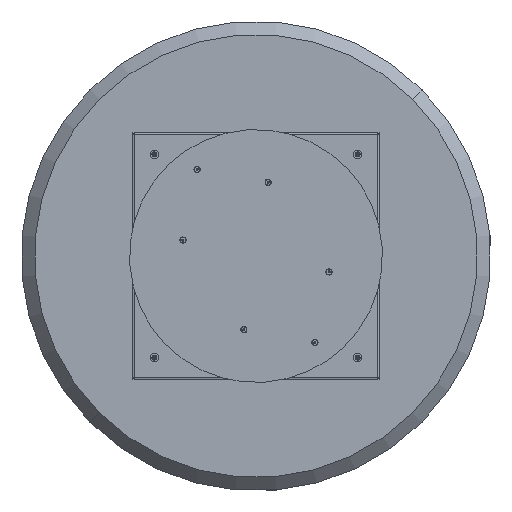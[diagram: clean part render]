
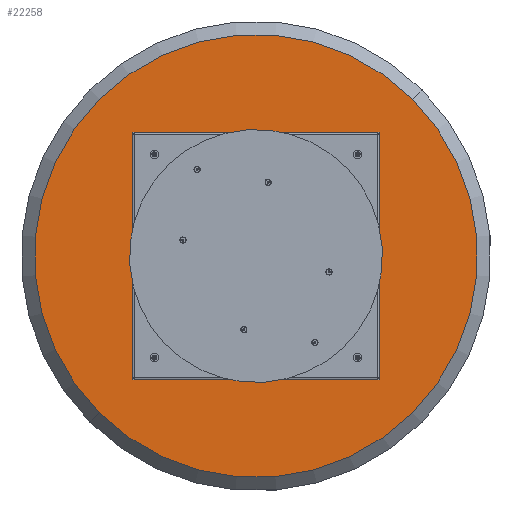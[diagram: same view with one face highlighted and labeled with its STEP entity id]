
A CAD part, front view. The second image highlights one B-rep face of the part: STEP entity #22258.
In plain terms, the highlighted planar face has unit normal (0, -1, 0).
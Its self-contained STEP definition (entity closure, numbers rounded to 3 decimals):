
#6 = AXIS2_PLACEMENT_3D ( 'NONE', #23525, #14367, #3159 ) ;
#286 = FACE_BOUND ( 'NONE', #7906, .T. ) ;
#417 = EDGE_CURVE ( 'NONE', #1320, #22818, #11811, .T. ) ;
#766 = PLANE ( 'NONE',  #9004 ) ;
#815 = AXIS2_PLACEMENT_3D ( 'NONE', #10442, #5119, #7172 ) ;
#841 = DIRECTION ( 'NONE',  ( 0., -1., 0. ) ) ;
#885 = AXIS2_PLACEMENT_3D ( 'NONE', #16538, #22089, #5693 ) ;
#1280 = ORIENTED_EDGE ( 'NONE', *, *, #6695, .F. ) ;
#1320 = VERTEX_POINT ( 'NONE', #4369 ) ;
#1736 = EDGE_CURVE ( 'NONE', #16000, #5134, #6936, .T. ) ;
#2419 = EDGE_LOOP ( 'NONE', ( #21763, #8677 ) ) ;
#3159 = DIRECTION ( 'NONE',  ( 0., 0., -1. ) ) ;
#3898 = AXIS2_PLACEMENT_3D ( 'NONE', #15194, #841, #8309 ) ;
#4119 = VERTEX_POINT ( 'NONE', #20568 ) ;
#4369 = CARTESIAN_POINT ( 'NONE',  ( 0., 0., -613. ) ) ;
#4401 = EDGE_CURVE ( 'NONE', #19671, #20948, #21287, .T. ) ;
#4491 = CARTESIAN_POINT ( 'NONE',  ( 397.5, 0., 0. ) ) ;
#4779 = VERTEX_POINT ( 'NONE', #17964 ) ;
#4829 = ORIENTED_EDGE ( 'NONE', *, *, #4401, .F. ) ;
#5119 = DIRECTION ( 'NONE',  ( 0., -1., 0. ) ) ;
#5134 = VERTEX_POINT ( 'NONE', #15889 ) ;
#5434 = CIRCLE ( 'NONE', #3898, 3.4 ) ;
#5632 = CIRCLE ( 'NONE', #22185, 613. ) ;
#5693 = DIRECTION ( 'NONE',  ( 0., 0., -1. ) ) ;
#5797 = CARTESIAN_POINT ( 'NONE',  ( 0., 0., 0. ) ) ;
#5827 = DIRECTION ( 'NONE',  ( 0., 0., -1. ) ) ;
#6041 = AXIS2_PLACEMENT_3D ( 'NONE', #22173, #23607, #7460 ) ;
#6184 = AXIS2_PLACEMENT_3D ( 'NONE', #7447, #12514, #16495 ) ;
#6695 = EDGE_CURVE ( 'NONE', #4779, #4119, #6729, .T. ) ;
#6729 = CIRCLE ( 'NONE', #20205, 3.4 ) ;
#6936 = CIRCLE ( 'NONE', #6, 3.4 ) ;
#7172 = DIRECTION ( 'NONE',  ( 0., 0., -1. ) ) ;
#7447 = CARTESIAN_POINT ( 'NONE',  ( -397.5, 0., 0. ) ) ;
#7460 = DIRECTION ( 'NONE',  ( 0., 0., -1. ) ) ;
#7641 = FACE_BOUND ( 'NONE', #14631, .T. ) ;
#7906 = EDGE_LOOP ( 'NONE', ( #4829, #9877 ) ) ;
#7909 = ORIENTED_EDGE ( 'NONE', *, *, #1736, .F. ) ;
#7985 = EDGE_LOOP ( 'NONE', ( #22577, #7909 ) ) ;
#8309 = DIRECTION ( 'NONE',  ( 0., 0., -1. ) ) ;
#8677 = ORIENTED_EDGE ( 'NONE', *, *, #417, .T. ) ;
#9004 = AXIS2_PLACEMENT_3D ( 'NONE', #15470, #22814, #5827 ) ;
#9728 = EDGE_CURVE ( 'NONE', #22818, #1320, #5632, .T. ) ;
#9805 = FACE_BOUND ( 'NONE', #17997, .T. ) ;
#9854 = DIRECTION ( 'NONE',  ( 0., 0., -1. ) ) ;
#9877 = ORIENTED_EDGE ( 'NONE', *, *, #19570, .F. ) ;
#10005 = CIRCLE ( 'NONE', #23072, 3.4 ) ;
#10123 = CARTESIAN_POINT ( 'NONE',  ( 0., 0., -400.9 ) ) ;
#10442 = CARTESIAN_POINT ( 'NONE',  ( 0., 0., 397.5 ) ) ;
#10957 = VERTEX_POINT ( 'NONE', #15071 ) ;
#11053 = CARTESIAN_POINT ( 'NONE',  ( 0., 0., 613. ) ) ;
#11388 = DIRECTION ( 'NONE',  ( 0., 0., -1. ) ) ;
#11446 = CARTESIAN_POINT ( 'NONE',  ( 0., 0., 400.9 ) ) ;
#11612 = VERTEX_POINT ( 'NONE', #17320 ) ;
#11657 = CARTESIAN_POINT ( 'NONE',  ( -397.5, 0., 0. ) ) ;
#11722 = FACE_OUTER_BOUND ( 'NONE', #2419, .T. ) ;
#11811 = CIRCLE ( 'NONE', #6041, 613. ) ;
#11820 = CARTESIAN_POINT ( 'NONE',  ( 0., 0., -394.1 ) ) ;
#12346 = ORIENTED_EDGE ( 'NONE', *, *, #18747, .F. ) ;
#12514 = DIRECTION ( 'NONE',  ( 0., -1., 0. ) ) ;
#13591 = DIRECTION ( 'NONE',  ( 0., 0., -1. ) ) ;
#14367 = DIRECTION ( 'NONE',  ( 0., -1., 0. ) ) ;
#14631 = EDGE_LOOP ( 'NONE', ( #18166, #20018 ) ) ;
#15071 = CARTESIAN_POINT ( 'NONE',  ( 397.5, 0., 3.4 ) ) ;
#15194 = CARTESIAN_POINT ( 'NONE',  ( 0., 0., -397.5 ) ) ;
#15355 = FACE_BOUND ( 'NONE', #7985, .T. ) ;
#15470 = CARTESIAN_POINT ( 'NONE',  ( 0., 0., 0. ) ) ;
#15801 = CIRCLE ( 'NONE', #6184, 3.4 ) ;
#15889 = CARTESIAN_POINT ( 'NONE',  ( 0., 0., 394.1 ) ) ;
#16000 = VERTEX_POINT ( 'NONE', #11446 ) ;
#16205 = CIRCLE ( 'NONE', #815, 3.4 ) ;
#16408 = EDGE_CURVE ( 'NONE', #10957, #11612, #10005, .T. ) ;
#16495 = DIRECTION ( 'NONE',  ( 0., 0., -1. ) ) ;
#16538 = CARTESIAN_POINT ( 'NONE',  ( 0., 0., -397.5 ) ) ;
#17320 = CARTESIAN_POINT ( 'NONE',  ( 397.5, 0., -3.4 ) ) ;
#17774 = CIRCLE ( 'NONE', #21248, 3.4 ) ;
#17933 = EDGE_CURVE ( 'NONE', #5134, #16000, #16205, .T. ) ;
#17964 = CARTESIAN_POINT ( 'NONE',  ( -397.5, 0., 3.4 ) ) ;
#17997 = EDGE_LOOP ( 'NONE', ( #12346, #1280 ) ) ;
#18166 = ORIENTED_EDGE ( 'NONE', *, *, #20082, .F. ) ;
#18747 = EDGE_CURVE ( 'NONE', #4119, #4779, #15801, .T. ) ;
#19004 = DIRECTION ( 'NONE',  ( 0., -1., 0. ) ) ;
#19570 = EDGE_CURVE ( 'NONE', #20948, #19671, #5434, .T. ) ;
#19671 = VERTEX_POINT ( 'NONE', #10123 ) ;
#20018 = ORIENTED_EDGE ( 'NONE', *, *, #16408, .F. ) ;
#20082 = EDGE_CURVE ( 'NONE', #11612, #10957, #17774, .T. ) ;
#20205 = AXIS2_PLACEMENT_3D ( 'NONE', #11657, #19004, #9854 ) ;
#20568 = CARTESIAN_POINT ( 'NONE',  ( -397.5, 0., -3.4 ) ) ;
#20664 = DIRECTION ( 'NONE',  ( 0., -1., 0. ) ) ;
#20948 = VERTEX_POINT ( 'NONE', #11820 ) ;
#20977 = DIRECTION ( 'NONE',  ( 0., 0., -1. ) ) ;
#21064 = DIRECTION ( 'NONE',  ( 0., -1., 0. ) ) ;
#21248 = AXIS2_PLACEMENT_3D ( 'NONE', #22752, #21064, #13591 ) ;
#21287 = CIRCLE ( 'NONE', #885, 3.4 ) ;
#21763 = ORIENTED_EDGE ( 'NONE', *, *, #9728, .T. ) ;
#22089 = DIRECTION ( 'NONE',  ( 0., -1., 0. ) ) ;
#22173 = CARTESIAN_POINT ( 'NONE',  ( 0., 0., 0. ) ) ;
#22185 = AXIS2_PLACEMENT_3D ( 'NONE', #5797, #22553, #20977 ) ;
#22258 = ADVANCED_FACE ( 'NONE', ( #11722, #286, #9805, #7641, #15355 ), #766, .T. ) ;
#22553 = DIRECTION ( 'NONE',  ( 0., -1., 0. ) ) ;
#22577 = ORIENTED_EDGE ( 'NONE', *, *, #17933, .F. ) ;
#22752 = CARTESIAN_POINT ( 'NONE',  ( 397.5, 0., 0. ) ) ;
#22814 = DIRECTION ( 'NONE',  ( 0., -1., 0. ) ) ;
#22818 = VERTEX_POINT ( 'NONE', #11053 ) ;
#23072 = AXIS2_PLACEMENT_3D ( 'NONE', #4491, #20664, #11388 ) ;
#23525 = CARTESIAN_POINT ( 'NONE',  ( 0., 0., 397.5 ) ) ;
#23607 = DIRECTION ( 'NONE',  ( 0., -1., 0. ) ) ;
